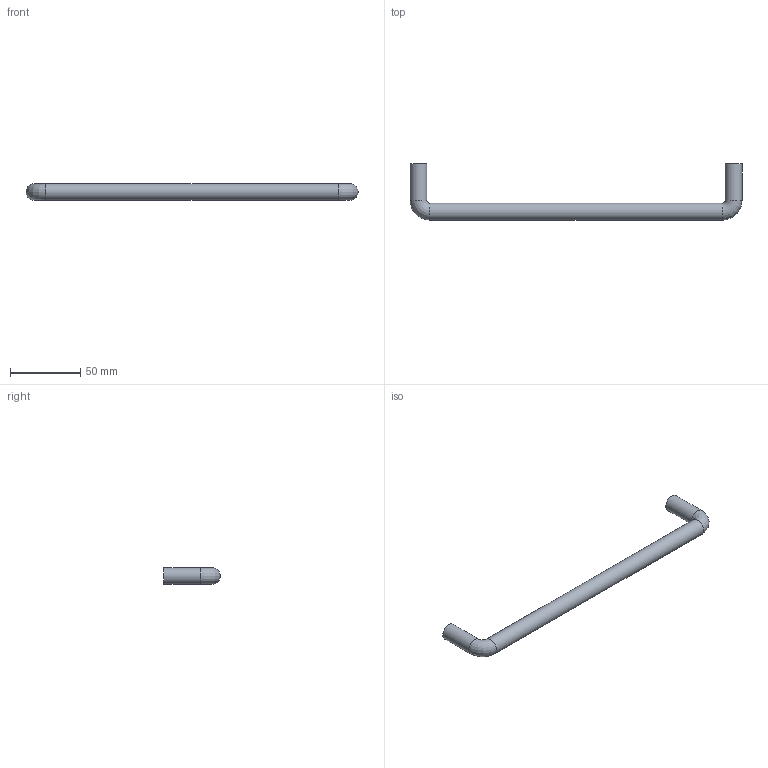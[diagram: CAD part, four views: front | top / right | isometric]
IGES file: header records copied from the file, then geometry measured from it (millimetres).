
Start section: Data from Parasolid IGES Translator 15.0.47, Copyright(c) 2006 Siemens P LM Software. All Rights Reserved.
Global section: file name: 9070118.igs; native system:  By UGS Corp.; preprocessor: XPlus GENERIC/IGES 3.0; author: Noname; organization: Noname; date: 20140122.155448; units: millimetre
Bounding box: 236 x 40 x 12 mm (x, y, z)
Surface area: 11226.8 mm2 (no closed solid volume)
Topology: 0 solids, 0 shells, 11 faces, 42 edges, 38 vertices
Faces by surface type: revolution 7, extrusion 4
